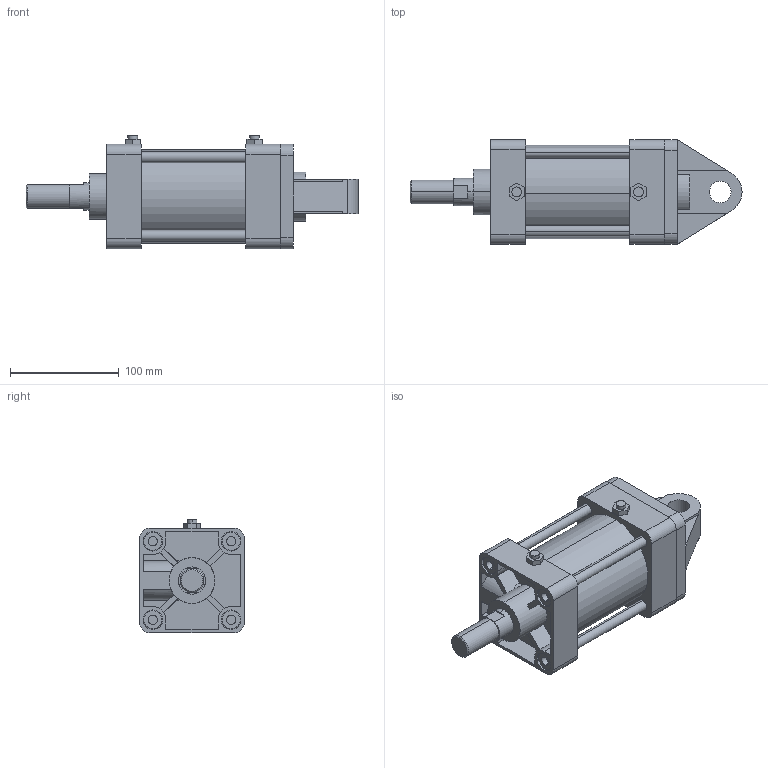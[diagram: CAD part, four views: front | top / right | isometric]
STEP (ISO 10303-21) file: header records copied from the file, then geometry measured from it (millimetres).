
FILE_DESCRIPTION (( 'STEP AP203' ), '1' );
FILE_NAME ('KG2-80-50-C.STEP', '2016-04-01T08:19:35', ( '' ), ( '' ), 'SwSTEP 2.0', 'SolidWorks 2014', '' );
FILE_SCHEMA (( 'CONFIG_CONTROL_DESIGN' ));
Length unit declared in the file: millimetre
Products named in the file (7): KGLH2-80-50; KG2-80-50-C; K-80-C; KG2-80-After
Assembly tree (16 placements, depth 2):
  KG2-80-50-C
    KG2-80-After
    KGLH2-80-50
    (unnamed)
    (unnamed)  x4
    (unnamed)  x8
    K-80-C
Bounding box: 305 x 96 x 104.3 mm (x, y, z)
Volume: 1254343.5 mm3; surface area: 204695 mm2
Topology: 16 solids, 16 shells, 348 faces, 835 edges, 534 vertices
Faces by surface type: plane 154, cylinder 136, torus 32, cone 26
Entity records: 8878 total; most frequent: CARTESIAN_POINT 1470, DIRECTION 1407, ORIENTED_EDGE 1290, EDGE_CURVE 645, AXIS2_PLACEMENT_3D 513, VERTEX_POINT 424, LINE 381, VECTOR 381
